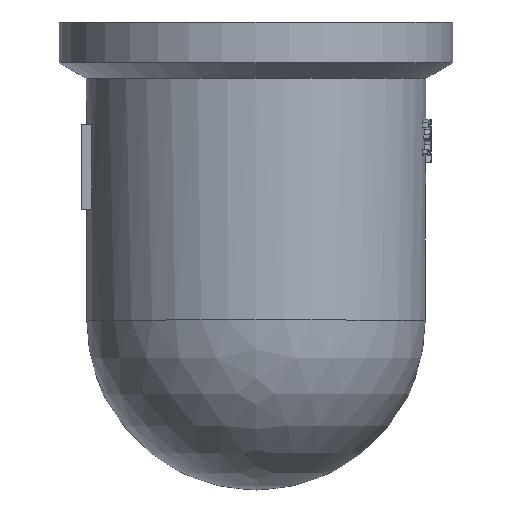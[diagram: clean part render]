
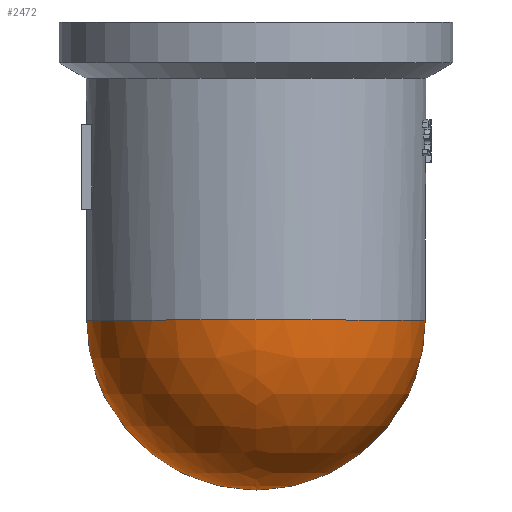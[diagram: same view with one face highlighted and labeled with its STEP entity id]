
A CAD part, top view. The second image highlights one B-rep face of the part: STEP entity #2472.
In plain terms, the highlighted spherical face has radius 15.1 mm.
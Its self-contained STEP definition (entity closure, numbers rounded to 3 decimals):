
#717=FACE_OUTER_BOUND('',#867,.T.);
#867=EDGE_LOOP('',(#2100,#2101,#2102,#2103,#2104));
#967=CIRCLE('',#2646,15.1);
#968=CIRCLE('',#2647,15.1);
#974=CIRCLE('',#2672,15.054);
#983=CIRCLE('',#2688,15.1);
#1124=VERTEX_POINT('',#4367);
#1125=VERTEX_POINT('',#4369);
#1126=VERTEX_POINT('',#4371);
#1177=VERTEX_POINT('',#4606);
#1430=EDGE_CURVE('',#1124,#1125,#967,.T.);
#1431=EDGE_CURVE('',#1125,#1126,#968,.T.);
#1497=EDGE_CURVE('',#1124,#1126,#974,.T.);
#1508=EDGE_CURVE('',#1125,#1177,#983,.T.);
#2100=ORIENTED_EDGE('',*,*,#1430,.F.);
#2101=ORIENTED_EDGE('',*,*,#1497,.T.);
#2102=ORIENTED_EDGE('',*,*,#1431,.F.);
#2103=ORIENTED_EDGE('',*,*,#1508,.T.);
#2104=ORIENTED_EDGE('',*,*,#1508,.F.);
#2382=SPHERICAL_SURFACE('',#2687,15.1);
#2472=ADVANCED_FACE('',(#717),#2382,.T.);
#2646=AXIS2_PLACEMENT_3D('',#4370,#3029,#3030);
#2647=AXIS2_PLACEMENT_3D('',#4372,#3031,#3032);
#2672=AXIS2_PLACEMENT_3D('',#4582,#3130,#3131);
#2687=AXIS2_PLACEMENT_3D('',#4605,#3162,#3163);
#2688=AXIS2_PLACEMENT_3D('',#4607,#3164,#3165);
#3029=DIRECTION('center_axis',(0.,1.,0.));
#3030=DIRECTION('ref_axis',(1.,0.,0.));
#3031=DIRECTION('center_axis',(0.,1.,0.));
#3032=DIRECTION('ref_axis',(1.,0.,0.));
#3130=DIRECTION('center_axis',(0.,0.,1.));
#3131=DIRECTION('ref_axis',(0.,-1.,0.));
#3162=DIRECTION('center_axis',(0.,1.,0.));
#3163=DIRECTION('ref_axis',(0.,0.,-1.));
#3164=DIRECTION('center_axis',(1.,0.,0.));
#3165=DIRECTION('ref_axis',(0.,0.,1.));
#4367=CARTESIAN_POINT('',(-15.054,-26.5,-1.18));
#4369=CARTESIAN_POINT('',(0.,-26.5,15.1));
#4370=CARTESIAN_POINT('Origin',(0.,-26.5,0.));
#4371=CARTESIAN_POINT('',(15.054,-26.5,-1.18));
#4372=CARTESIAN_POINT('Origin',(0.,-26.5,0.));
#4582=CARTESIAN_POINT('Origin',(0.,-26.5,-1.18));
#4605=CARTESIAN_POINT('Origin',(0.,-26.5,0.));
#4606=CARTESIAN_POINT('',(0.,-41.6,0.));
#4607=CARTESIAN_POINT('Origin',(0.,-26.5,0.));
